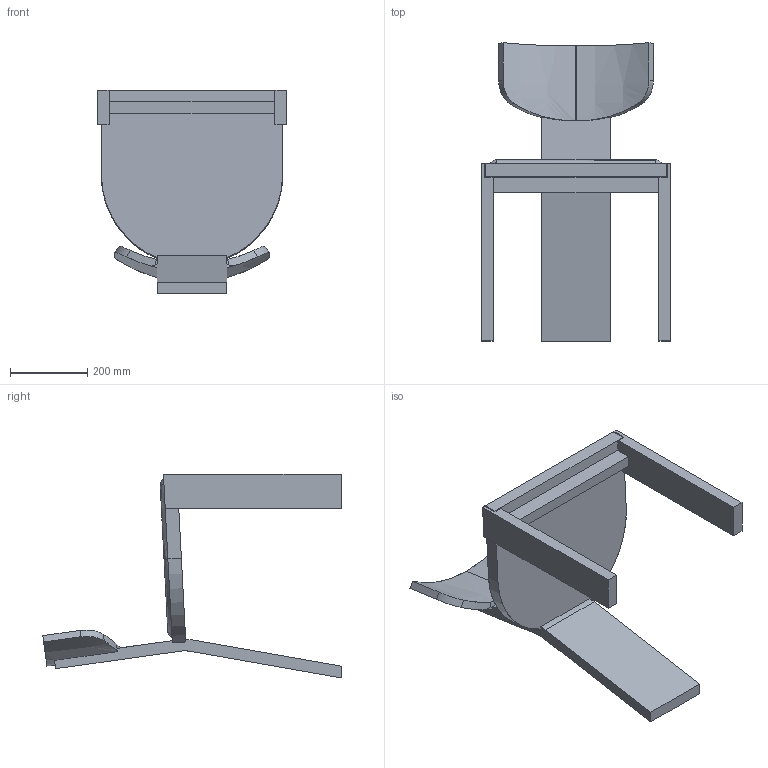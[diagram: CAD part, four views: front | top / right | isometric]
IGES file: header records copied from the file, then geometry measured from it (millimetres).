
Start section: SolidWorks IGES file using analytic representation for surfaces
Global section: file name: C:\Users\Utilizador\Desktop\Sales Files\171\171Y Vega Dining Chair_3D IGS.IGS; native system: SolidWorks 2016; preprocessor: SolidWorks 2016; author: Utilizador; date: 221104.145020; units: millimetre
Bounding box: 489 x 772.18 x 527.46 mm (x, y, z)
Surface area: 1084217.9 mm2 (no closed solid volume)
Topology: 0 solids, 0 shells, 93 faces, 892 edges, 890 vertices
Faces by surface type: bspline 85, revolution 8
